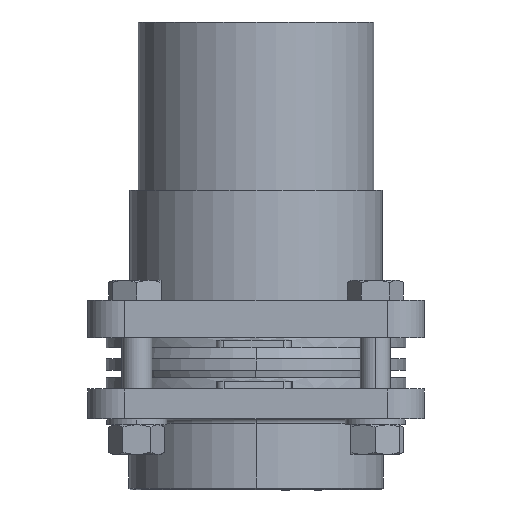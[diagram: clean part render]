
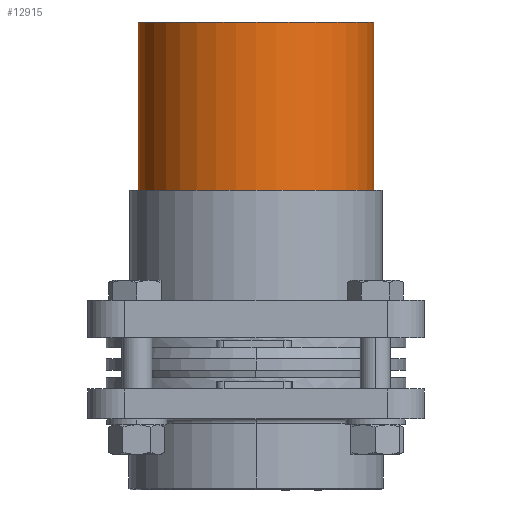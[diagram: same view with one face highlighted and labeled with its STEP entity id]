
A CAD part, front view. The second image highlights one B-rep face of the part: STEP entity #12915.
In plain terms, the highlighted cylindrical face has radius 31.5 mm (diameter 63 mm), a partial arc.
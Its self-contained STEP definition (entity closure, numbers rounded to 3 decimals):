
#551 = LINE ( 'NONE', #553, #4391 ) ;
#553 = CARTESIAN_POINT ( 'NONE',  ( 31.5, 0., 75. ) ) ;
#554 = DIRECTION ( 'NONE',  ( 0., 0., -1. ) ) ;
#555 = CARTESIAN_POINT ( 'NONE',  ( -31.5, 0., 75. ) ) ;
#559 = LINE ( 'NONE', #555, #12568 ) ;
#560 = CARTESIAN_POINT ( 'NONE',  ( 0., 0., 75. ) ) ;
#561 = DIRECTION ( 'NONE',  ( 0., 0., 1. ) ) ;
#562 = DIRECTION ( 'NONE',  ( 1., 0., 0. ) ) ;
#564 = DIRECTION ( 'NONE',  ( 0., 0., -1. ) ) ;
#836 = VERTEX_POINT ( 'NONE', #4203 ) ;
#838 = VERTEX_POINT ( 'NONE', #4205 ) ;
#4138 = VERTEX_POINT ( 'NONE', #15485 ) ;
#4159 = VERTEX_POINT ( 'NONE', #11901 ) ;
#4203 = CARTESIAN_POINT ( 'NONE',  ( 31.5, 0., 75. ) ) ;
#4205 = CARTESIAN_POINT ( 'NONE',  ( -31.5, 0., 75. ) ) ;
#4391 = VECTOR ( 'NONE', #554, 1000. ) ;
#5300 = DIRECTION ( 'NONE',  ( 0., 0., -1. ) ) ;
#5302 = FACE_OUTER_BOUND ( 'NONE', #17405, .T. ) ;
#5303 = CARTESIAN_POINT ( 'NONE',  ( 0., 0., 75. ) ) ;
#5305 = CYLINDRICAL_SURFACE ( 'NONE', #5699, 31.5 ) ;
#5306 = DIRECTION ( 'NONE',  ( -1., 0., 0. ) ) ;
#5699 = AXIS2_PLACEMENT_3D ( 'NONE', #5303, #5300, #5306 ) ;
#7422 = EDGE_CURVE ( 'NONE', #836, #4138, #551, .T. ) ;
#7424 = EDGE_CURVE ( 'NONE', #838, #836, #12565, .T. ) ;
#7425 = EDGE_CURVE ( 'NONE', #838, #4159, #559, .T. ) ;
#9362 = CIRCLE ( 'NONE', #9365, 31.5 ) ;
#9365 = AXIS2_PLACEMENT_3D ( 'NONE', #19562, #19563, #19564 ) ;
#11901 = CARTESIAN_POINT ( 'NONE',  ( -31.5, 0., 0. ) ) ;
#12565 = CIRCLE ( 'NONE', #12566, 31.5 ) ;
#12566 = AXIS2_PLACEMENT_3D ( 'NONE', #560, #561, #562 ) ;
#12568 = VECTOR ( 'NONE', #564, 1000. ) ;
#12915 = ADVANCED_FACE ( 'NONE', ( #5302 ), #5305, .T. ) ;
#15485 = CARTESIAN_POINT ( 'NONE',  ( 31.5, 0., 0. ) ) ;
#15655 = EDGE_CURVE ( 'NONE', #4159, #4138, #9362, .T. ) ;
#17405 = EDGE_LOOP ( 'NONE', ( #17878, #17879, #17880, #17881 ) ) ;
#17878 = ORIENTED_EDGE ( 'NONE', *, *, #7422, .F. ) ;
#17879 = ORIENTED_EDGE ( 'NONE', *, *, #7424, .F. ) ;
#17880 = ORIENTED_EDGE ( 'NONE', *, *, #7425, .T. ) ;
#17881 = ORIENTED_EDGE ( 'NONE', *, *, #15655, .T. ) ;
#19562 = CARTESIAN_POINT ( 'NONE',  ( 0., 0., 0. ) ) ;
#19563 = DIRECTION ( 'NONE',  ( 0., 0., 1. ) ) ;
#19564 = DIRECTION ( 'NONE',  ( 1., 0., 0. ) ) ;
